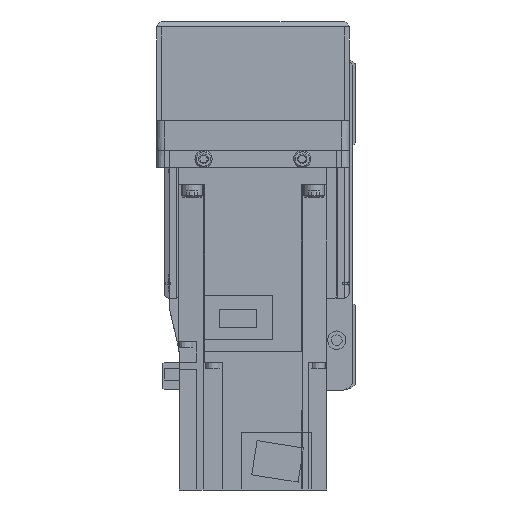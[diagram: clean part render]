
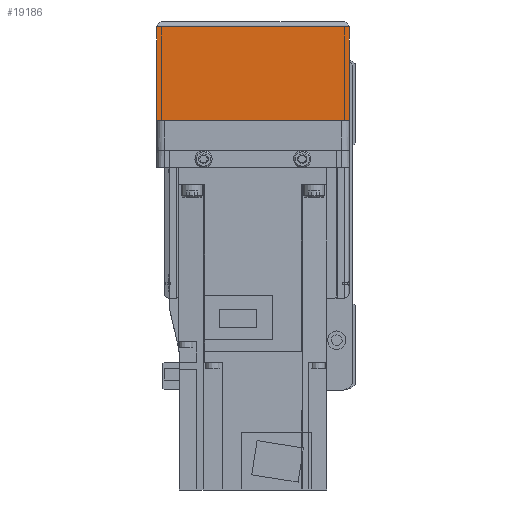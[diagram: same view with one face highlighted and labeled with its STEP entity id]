
A CAD part, left-side view. The second image highlights one B-rep face of the part: STEP entity #19186.
In plain terms, the highlighted planar face has unit normal (-1, 0, 0).
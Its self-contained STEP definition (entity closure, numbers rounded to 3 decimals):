
#2858=ORIENTED_EDGE('',*,*,#7701,.F.);
#2859=ORIENTED_EDGE('',*,*,#7702,.F.);
#2860=ORIENTED_EDGE('',*,*,#7703,.T.);
#2861=ORIENTED_EDGE('',*,*,#7704,.F.);
#7701=EDGE_CURVE('',#10221,#10212,#12202,.T.);
#7702=EDGE_CURVE('',#10238,#10221,#12203,.T.);
#7703=EDGE_CURVE('',#10238,#10239,#12204,.T.);
#7704=EDGE_CURVE('',#10212,#10239,#12205,.T.);
#10212=VERTEX_POINT('',#29428);
#10221=VERTEX_POINT('',#29446);
#10238=VERTEX_POINT('',#29494);
#10239=VERTEX_POINT('',#29496);
#12202=LINE('',#29492,#13875);
#12203=LINE('',#29493,#13876);
#12204=LINE('',#29495,#13877);
#12205=LINE('',#29497,#13878);
#13875=VECTOR('',#23608,1000.);
#13876=VECTOR('',#23609,1000.);
#13877=VECTOR('',#23610,1000.);
#13878=VECTOR('',#23611,1000.);
#15380=EDGE_LOOP('',(#2858,#2859,#2860,#2861));
#16975=FACE_BOUND('',#15380,.T.);
#18411=PLANE('',#20564);
#19186=ADVANCED_FACE('',(#16975),#18411,.F.);
#20564=AXIS2_PLACEMENT_3D('',#29491,#23606,#23607);
#23606=DIRECTION('',(1.,0.,0.));
#23607=DIRECTION('',(0.,0.,-1.));
#23608=DIRECTION('',(0.,-1.,0.));
#23609=DIRECTION('',(0.,0.,1.));
#23610=DIRECTION('',(0.,-1.,0.));
#23611=DIRECTION('',(0.,0.,-1.));
#29428=CARTESIAN_POINT('',(-158.,-39.,-12.1));
#29446=CARTESIAN_POINT('',(-158.,39.,-12.1));
#29491=CARTESIAN_POINT('',(-158.,36.,7.));
#29492=CARTESIAN_POINT('',(-158.,50.,-12.1));
#29493=CARTESIAN_POINT('',(-158.,39.,-50.));
#29494=CARTESIAN_POINT('',(-158.,39.,-50.));
#29495=CARTESIAN_POINT('',(-158.,40.,-50.));
#29496=CARTESIAN_POINT('',(-158.,-39.,-50.));
#29497=CARTESIAN_POINT('',(-158.,-39.,-12.1));
